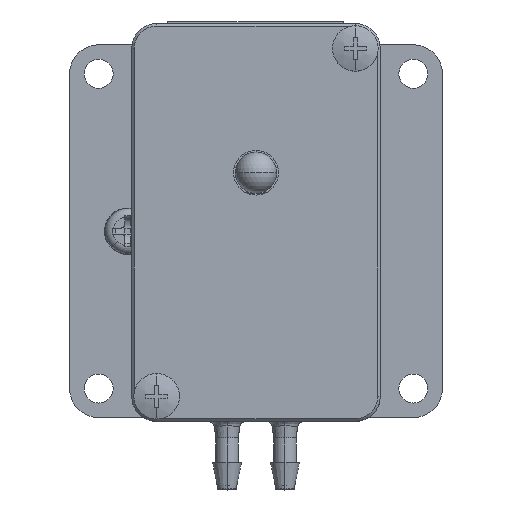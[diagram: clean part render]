
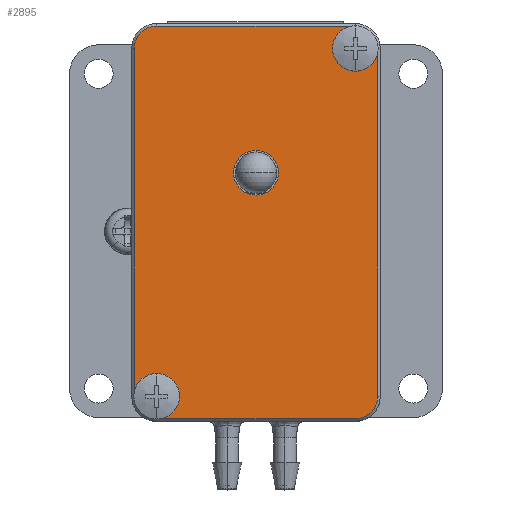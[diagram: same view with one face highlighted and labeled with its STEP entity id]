
A CAD part, top view. The second image highlights one B-rep face of the part: STEP entity #2895.
In plain terms, the highlighted planar face has unit normal (0, 0, 1).
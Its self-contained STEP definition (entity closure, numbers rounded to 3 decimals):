
#30 = VERTEX_POINT ( 'NONE', #10050 ) ;
#80 = CIRCLE ( 'NONE', #8249, 1.5 ) ;
#366 = CARTESIAN_POINT ( 'NONE',  ( 14.7, -27., 2.5 ) ) ;
#373 = CARTESIAN_POINT ( 'NONE',  ( 0., 0., 2.5 ) ) ;
#376 = AXIS2_PLACEMENT_3D ( 'NONE', #11511, #9271, #12795 ) ;
#561 = AXIS2_PLACEMENT_3D ( 'NONE', #15788, #15553, #12095 ) ;
#654 = EDGE_LOOP ( 'NONE', ( #6764, #9344 ) ) ;
#703 = DIRECTION ( 'NONE',  ( 1., 0., 0. ) ) ;
#762 = EDGE_CURVE ( 'NONE', #10301, #6702, #80, .T. ) ;
#781 = CARTESIAN_POINT ( 'NONE',  ( 12., 15., 2.5 ) ) ;
#1081 = DIRECTION ( 'NONE',  ( 0., 0., 1. ) ) ;
#1158 = ORIENTED_EDGE ( 'NONE', *, *, #2800, .T. ) ;
#1330 = CARTESIAN_POINT ( 'NONE',  ( -14.7, 15., 2.5 ) ) ;
#1535 = ORIENTED_EDGE ( 'NONE', *, *, #762, .F. ) ;
#1638 = AXIS2_PLACEMENT_3D ( 'NONE', #5087, #6365, #13820 ) ;
#1810 = VERTEX_POINT ( 'NONE', #4640 ) ;
#1912 = CARTESIAN_POINT ( 'NONE',  ( -12., 17.7, 2.5 ) ) ;
#1986 = CARTESIAN_POINT ( 'NONE',  ( -14.7, -27., 2.5 ) ) ;
#2195 = CARTESIAN_POINT ( 'NONE',  ( 0., 0., 2.5 ) ) ;
#2300 = VERTEX_POINT ( 'NONE', #3583 ) ;
#2625 = VERTEX_POINT ( 'NONE', #9431 ) ;
#2800 = EDGE_CURVE ( 'NONE', #10889, #4717, #9919, .T. ) ;
#2895 = ADVANCED_FACE ( 'NONE', ( #6213, #12630, #12300, #8768 ), #13505, .F. ) ;
#2956 = DIRECTION ( 'NONE',  ( -1., 0., 0. ) ) ;
#3024 = DIRECTION ( 'NONE',  ( 0., 0., 1. ) ) ;
#3067 = CIRCLE ( 'NONE', #9715, 2.7 ) ;
#3109 = LINE ( 'NONE', #1912, #4339 ) ;
#3164 = DIRECTION ( 'NONE',  ( 1., 0., 0. ) ) ;
#3268 = DIRECTION ( 'NONE',  ( 0., 0., 1. ) ) ;
#3583 = CARTESIAN_POINT ( 'NONE',  ( -12., -29.7, 2.5 ) ) ;
#3645 = DIRECTION ( 'NONE',  ( -1., 0., 0. ) ) ;
#3656 = DIRECTION ( 'NONE',  ( -1., 0., 0. ) ) ;
#3985 = ORIENTED_EDGE ( 'NONE', *, *, #7589, .T. ) ;
#4046 = DIRECTION ( 'NONE',  ( -1., 0., 0. ) ) ;
#4339 = VECTOR ( 'NONE', #2956, 1000. ) ;
#4640 = CARTESIAN_POINT ( 'NONE',  ( -12., 17.7, 2.5 ) ) ;
#4717 = VERTEX_POINT ( 'NONE', #9469 ) ;
#4859 = CARTESIAN_POINT ( 'NONE',  ( -12., 15., 2.5 ) ) ;
#4942 = DIRECTION ( 'NONE',  ( 0., 0., 1. ) ) ;
#5087 = CARTESIAN_POINT ( 'NONE',  ( -12., -27., 2.5 ) ) ;
#5399 = DIRECTION ( 'NONE',  ( 0., 0., 1. ) ) ;
#5400 = EDGE_LOOP ( 'NONE', ( #8122, #13051, #3985, #12337, #1158, #14409, #7384, #5721 ) ) ;
#5461 = AXIS2_PLACEMENT_3D ( 'NONE', #14222, #5399, #3164 ) ;
#5508 = CARTESIAN_POINT ( 'NONE',  ( 12., -27., 2.5 ) ) ;
#5721 = ORIENTED_EDGE ( 'NONE', *, *, #10910, .T. ) ;
#5734 = DIRECTION ( 'NONE',  ( 1., 0., 0. ) ) ;
#5847 = VERTEX_POINT ( 'NONE', #7721 ) ;
#5973 = DIRECTION ( 'NONE',  ( 0., -1., 0. ) ) ;
#6213 = FACE_BOUND ( 'NONE', #7896, .T. ) ;
#6341 = EDGE_CURVE ( 'NONE', #9962, #10889, #7023, .T. ) ;
#6365 = DIRECTION ( 'NONE',  ( 0., 0., -1. ) ) ;
#6460 = VERTEX_POINT ( 'NONE', #1330 ) ;
#6486 = CIRCLE ( 'NONE', #1638, 1.5 ) ;
#6702 = VERTEX_POINT ( 'NONE', #13491 ) ;
#6764 = ORIENTED_EDGE ( 'NONE', *, *, #10769, .T. ) ;
#6802 = EDGE_CURVE ( 'NONE', #2300, #30, #11556, .T. ) ;
#6806 = CARTESIAN_POINT ( 'NONE',  ( -14.7, -27., 2.5 ) ) ;
#6837 = EDGE_LOOP ( 'NONE', ( #1535, #8507 ) ) ;
#7023 = LINE ( 'NONE', #11915, #11893 ) ;
#7361 = EDGE_CURVE ( 'NONE', #1810, #6460, #3067, .T. ) ;
#7384 = ORIENTED_EDGE ( 'NONE', *, *, #7361, .T. ) ;
#7418 = ORIENTED_EDGE ( 'NONE', *, *, #11425, .F. ) ;
#7589 = EDGE_CURVE ( 'NONE', #30, #9962, #10038, .T. ) ;
#7721 = CARTESIAN_POINT ( 'NONE',  ( 2.7, 0., 2.5 ) ) ;
#7896 = EDGE_LOOP ( 'NONE', ( #7418, #8157 ) ) ;
#7965 = EDGE_CURVE ( 'NONE', #2625, #5847, #15438, .T. ) ;
#8122 = ORIENTED_EDGE ( 'NONE', *, *, #8655, .T. ) ;
#8157 = ORIENTED_EDGE ( 'NONE', *, *, #7965, .F. ) ;
#8249 = AXIS2_PLACEMENT_3D ( 'NONE', #11667, #3024, #703 ) ;
#8292 = DIRECTION ( 'NONE',  ( 0., 1., 0. ) ) ;
#8507 = ORIENTED_EDGE ( 'NONE', *, *, #10964, .F. ) ;
#8655 = EDGE_CURVE ( 'NONE', #13344, #2300, #12334, .T. ) ;
#8768 = FACE_BOUND ( 'NONE', #654, .T. ) ;
#8941 = LINE ( 'NONE', #1986, #15736 ) ;
#9271 = DIRECTION ( 'NONE',  ( 0., 0., -1. ) ) ;
#9344 = ORIENTED_EDGE ( 'NONE', *, *, #9933, .T. ) ;
#9355 = DIRECTION ( 'NONE',  ( 1., 0., 0. ) ) ;
#9385 = AXIS2_PLACEMENT_3D ( 'NONE', #2195, #13175, #5734 ) ;
#9419 = DIRECTION ( 'NONE',  ( 0., 0., 1. ) ) ;
#9431 = CARTESIAN_POINT ( 'NONE',  ( -2.7, 0., 2.5 ) ) ;
#9469 = CARTESIAN_POINT ( 'NONE',  ( 12., 17.7, 2.5 ) ) ;
#9715 = AXIS2_PLACEMENT_3D ( 'NONE', #4859, #4942, #3656 ) ;
#9774 = CARTESIAN_POINT ( 'NONE',  ( -13.5, -27., 2.5 ) ) ;
#9912 = CARTESIAN_POINT ( 'NONE',  ( -10.5, -27., 2.5 ) ) ;
#9919 = CIRCLE ( 'NONE', #14281, 2.7 ) ;
#9933 = EDGE_CURVE ( 'NONE', #12417, #13030, #6486, .T. ) ;
#9962 = VERTEX_POINT ( 'NONE', #366 ) ;
#10038 = CIRCLE ( 'NONE', #14645, 2.7 ) ;
#10050 = CARTESIAN_POINT ( 'NONE',  ( 12., -29.7, 2.5 ) ) ;
#10301 = VERTEX_POINT ( 'NONE', #14760 ) ;
#10379 = DIRECTION ( 'NONE',  ( -1., 0., 0. ) ) ;
#10769 = EDGE_CURVE ( 'NONE', #13030, #12417, #14201, .T. ) ;
#10889 = VERTEX_POINT ( 'NONE', #14169 ) ;
#10910 = EDGE_CURVE ( 'NONE', #6460, #13344, #8941, .T. ) ;
#10964 = EDGE_CURVE ( 'NONE', #6702, #10301, #12923, .T. ) ;
#11002 = CARTESIAN_POINT ( 'NONE',  ( 12., 15., 2.5 ) ) ;
#11092 = DIRECTION ( 'NONE',  ( 0., 0., -1. ) ) ;
#11237 = VECTOR ( 'NONE', #15255, 1000. ) ;
#11425 = EDGE_CURVE ( 'NONE', #5847, #2625, #14756, .T. ) ;
#11480 = CARTESIAN_POINT ( 'NONE',  ( 12., -29.7, 2.5 ) ) ;
#11511 = CARTESIAN_POINT ( 'NONE',  ( -12., -27., 2.5 ) ) ;
#11556 = LINE ( 'NONE', #11480, #11237 ) ;
#11667 = CARTESIAN_POINT ( 'NONE',  ( 12., 15., 2.5 ) ) ;
#11893 = VECTOR ( 'NONE', #8292, 1000. ) ;
#11915 = CARTESIAN_POINT ( 'NONE',  ( 14.7, 15., 2.5 ) ) ;
#12095 = DIRECTION ( 'NONE',  ( -1., 0., 0. ) ) ;
#12300 = FACE_BOUND ( 'NONE', #6837, .T. ) ;
#12334 = CIRCLE ( 'NONE', #561, 2.7 ) ;
#12337 = ORIENTED_EDGE ( 'NONE', *, *, #6341, .T. ) ;
#12417 = VERTEX_POINT ( 'NONE', #9912 ) ;
#12630 = FACE_OUTER_BOUND ( 'NONE', #5400, .T. ) ;
#12795 = DIRECTION ( 'NONE',  ( -1., 0., 0. ) ) ;
#12923 = CIRCLE ( 'NONE', #15221, 1.5 ) ;
#13030 = VERTEX_POINT ( 'NONE', #9774 ) ;
#13051 = ORIENTED_EDGE ( 'NONE', *, *, #6802, .T. ) ;
#13175 = DIRECTION ( 'NONE',  ( 0., 0., 1. ) ) ;
#13344 = VERTEX_POINT ( 'NONE', #6806 ) ;
#13491 = CARTESIAN_POINT ( 'NONE',  ( 10.5, 15., 2.5 ) ) ;
#13503 = AXIS2_PLACEMENT_3D ( 'NONE', #373, #11092, #4046 ) ;
#13505 = PLANE ( 'NONE',  #13503 ) ;
#13820 = DIRECTION ( 'NONE',  ( -1., 0., 0. ) ) ;
#14169 = CARTESIAN_POINT ( 'NONE',  ( 14.7, 15., 2.5 ) ) ;
#14201 = CIRCLE ( 'NONE', #376, 1.5 ) ;
#14222 = CARTESIAN_POINT ( 'NONE',  ( 0., 0., 2.5 ) ) ;
#14281 = AXIS2_PLACEMENT_3D ( 'NONE', #11002, #1081, #3645 ) ;
#14409 = ORIENTED_EDGE ( 'NONE', *, *, #14467, .T. ) ;
#14467 = EDGE_CURVE ( 'NONE', #4717, #1810, #3109, .T. ) ;
#14645 = AXIS2_PLACEMENT_3D ( 'NONE', #5508, #9419, #10379 ) ;
#14756 = CIRCLE ( 'NONE', #9385, 2.7 ) ;
#14760 = CARTESIAN_POINT ( 'NONE',  ( 13.5, 15., 2.5 ) ) ;
#15221 = AXIS2_PLACEMENT_3D ( 'NONE', #781, #3268, #9355 ) ;
#15255 = DIRECTION ( 'NONE',  ( 1., 0., 0. ) ) ;
#15438 = CIRCLE ( 'NONE', #5461, 2.7 ) ;
#15553 = DIRECTION ( 'NONE',  ( 0., 0., 1. ) ) ;
#15736 = VECTOR ( 'NONE', #5973, 1000. ) ;
#15788 = CARTESIAN_POINT ( 'NONE',  ( -12., -27., 2.5 ) ) ;
